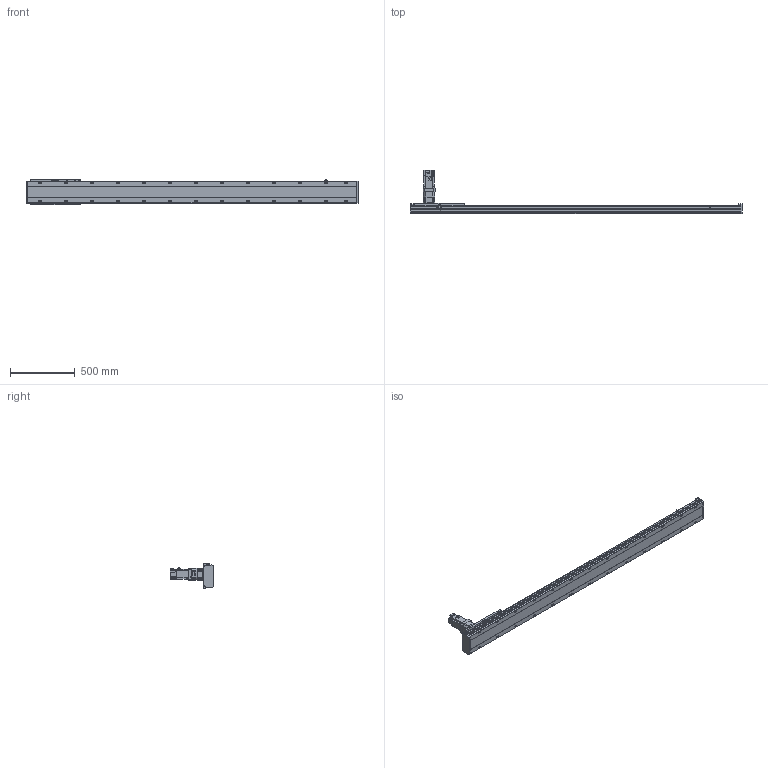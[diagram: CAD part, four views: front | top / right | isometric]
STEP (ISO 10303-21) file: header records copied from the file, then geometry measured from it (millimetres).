
FILE_DESCRIPTION(/* description */ ('STEP AP203'),/* implementation_level */ '2;1');
FILE_NAME(/* name */ 'SHS17A-L13-S2100-BC-T75-C1-N(0)',/* time_stamp */ '2023-03-27T08:57:59+02:00',/* author */ ('License CC BY-ND 4.0'),/* organization */ ('CADENAS'),/* preprocessor_version */ 'ST-DEVELOPER v19.3',/* originating_system */ 'PARTsolutions',/* authorisation */ ' ');
FILE_SCHEMA (('CONFIG_CONTROL_DESIGN'));
Length unit declared in the file: millimetre
Products named in the file (7): SHS17A-L13-S2100-BC-T75-C1-N(0); PSC140-sensor; SHS17A-S2100(0)_body2; T75-p1; SHS17A-S2100_body3; SHS17A-S2100-C1(0)_slider; SHS17A-S2100-C1(0)_body
Assembly tree (13 placements, depth 2):
  SHS17A-L13-S2100-BC-T75-C1-N(0)
    PSC140-sensor  x3
    SHS17A-S2100(0)_body2  x6
    T75-p1
    SHS17A-S2100_body3
    SHS17A-S2100-C1(0)_slider
    SHS17A-S2100-C1(0)_body
Bounding box: 2554 x 333.8 x 193.4 mm (x, y, z)
Volume: 18687778.4 mm3; surface area: 2185263.5 mm2
Topology: 13 solids, 13 shells, 2072 faces, 5256 edges, 3425 vertices
Faces by surface type: plane 1338, cylinder 651, cone 80, torus 3
Full cylindrical faces by diameter (mm): 2.8 x3, 4.134 x24, 4.5 x2, 4.6 x3, 4.917 x15, 5.5 x48, 6 x7, 6.5 x24, 6.647 x34, 6.8 x9, 8 x3, 8.5 x26, 10 x28, 11 x4, 14 x26, 22 x1, 24 x1, 24.2 x1, 28 x1, 28.2 x1, 28.8 x1, 29.8 x1, 48.542 x1, 68 x1, 70 x1, 78 x1, 80 x2
Entity records: 38822 total; most frequent: CARTESIAN_POINT 7478, DIRECTION 6373, ORIENTED_EDGE 6116, EDGE_CURVE 3058, AXIS2_PLACEMENT_3D 2236, VERTEX_POINT 2149, LINE 1901, VECTOR 1901
